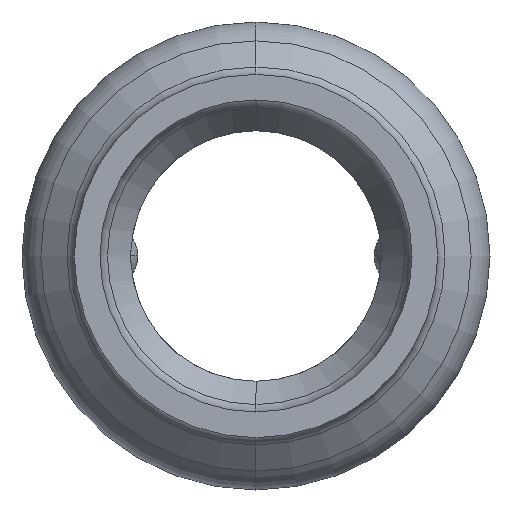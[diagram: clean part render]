
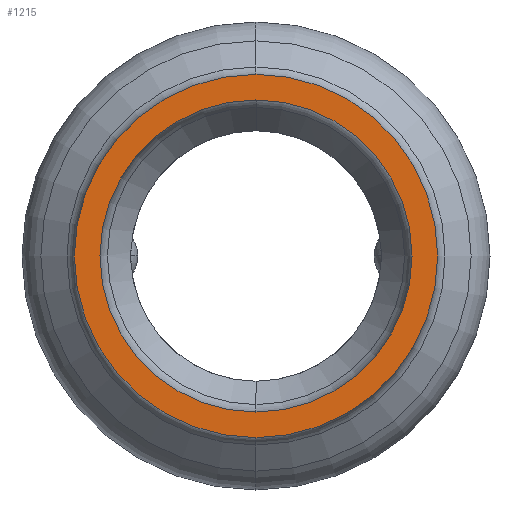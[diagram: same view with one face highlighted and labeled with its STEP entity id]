
A CAD part, left-side view. The second image highlights one B-rep face of the part: STEP entity #1215.
In plain terms, the highlighted planar face has unit normal (-1, 0, 0).
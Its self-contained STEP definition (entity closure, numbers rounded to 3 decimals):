
#113 = VERTEX_POINT ( 'NONE', #890 ) ;
#148 = EDGE_LOOP ( 'NONE', ( #1915, #2127 ) ) ;
#176 = CARTESIAN_POINT ( 'NONE',  ( -48., 0., 0. ) ) ;
#186 = DIRECTION ( 'NONE',  ( -1., 0., 0. ) ) ;
#195 = DIRECTION ( 'NONE',  ( 0., -1., 0. ) ) ;
#294 = CIRCLE ( 'NONE', #2339, 8.85 ) ;
#319 = CIRCLE ( 'NONE', #744, 8.85 ) ;
#500 = FACE_OUTER_BOUND ( 'NONE', #685, .T. ) ;
#523 = ORIENTED_EDGE ( 'NONE', *, *, #754, .T. ) ;
#612 = AXIS2_PLACEMENT_3D ( 'NONE', #707, #712, #726 ) ;
#685 = EDGE_LOOP ( 'NONE', ( #523, #1461 ) ) ;
#707 = CARTESIAN_POINT ( 'NONE',  ( -48., 0., 0. ) ) ;
#712 = DIRECTION ( 'NONE',  ( -1., 0., 0. ) ) ;
#726 = DIRECTION ( 'NONE',  ( 0., -1., 0. ) ) ;
#738 = EDGE_CURVE ( 'NONE', #1873, #113, #2326, .T. ) ;
#744 = AXIS2_PLACEMENT_3D ( 'NONE', #888, #892, #900 ) ;
#754 = EDGE_CURVE ( 'NONE', #1173, #2515, #319, .T. ) ;
#835 = CARTESIAN_POINT ( 'NONE',  ( -48., 0., 0. ) ) ;
#888 = CARTESIAN_POINT ( 'NONE',  ( -48., 0., 0. ) ) ;
#890 = CARTESIAN_POINT ( 'NONE',  ( -48., 0., -7.6 ) ) ;
#892 = DIRECTION ( 'NONE',  ( -1., 0., 0. ) ) ;
#900 = DIRECTION ( 'NONE',  ( 0., -1., 0. ) ) ;
#1008 = EDGE_CURVE ( 'NONE', #113, #1873, #2363, .T. ) ;
#1036 = EDGE_CURVE ( 'NONE', #2515, #1173, #294, .T. ) ;
#1173 = VERTEX_POINT ( 'NONE', #1738 ) ;
#1177 = DIRECTION ( 'NONE',  ( -1., 0., 0. ) ) ;
#1215 = ADVANCED_FACE ( 'NONE', ( #500, #1978 ), #1916, .T. ) ;
#1461 = ORIENTED_EDGE ( 'NONE', *, *, #1036, .T. ) ;
#1642 = DIRECTION ( 'NONE',  ( 0., -1., 0. ) ) ;
#1651 = CARTESIAN_POINT ( 'NONE',  ( -48., 0., -8.85 ) ) ;
#1738 = CARTESIAN_POINT ( 'NONE',  ( -48., 0., 8.85 ) ) ;
#1823 = AXIS2_PLACEMENT_3D ( 'NONE', #835, #1177, #1642 ) ;
#1873 = VERTEX_POINT ( 'NONE', #1968 ) ;
#1915 = ORIENTED_EDGE ( 'NONE', *, *, #738, .F. ) ;
#1916 = PLANE ( 'NONE',  #2153 ) ;
#1968 = CARTESIAN_POINT ( 'NONE',  ( -48., 0., 7.6 ) ) ;
#1978 = FACE_BOUND ( 'NONE', #148, .T. ) ;
#2080 = DIRECTION ( 'NONE',  ( 0., -1., 0. ) ) ;
#2127 = ORIENTED_EDGE ( 'NONE', *, *, #1008, .F. ) ;
#2153 = AXIS2_PLACEMENT_3D ( 'NONE', #2286, #2337, #2080 ) ;
#2286 = CARTESIAN_POINT ( 'NONE',  ( -48., -8.85, 0. ) ) ;
#2326 = CIRCLE ( 'NONE', #612, 7.6 ) ;
#2337 = DIRECTION ( 'NONE',  ( -1., 0., 0. ) ) ;
#2339 = AXIS2_PLACEMENT_3D ( 'NONE', #176, #186, #195 ) ;
#2363 = CIRCLE ( 'NONE', #1823, 7.6 ) ;
#2515 = VERTEX_POINT ( 'NONE', #1651 ) ;
